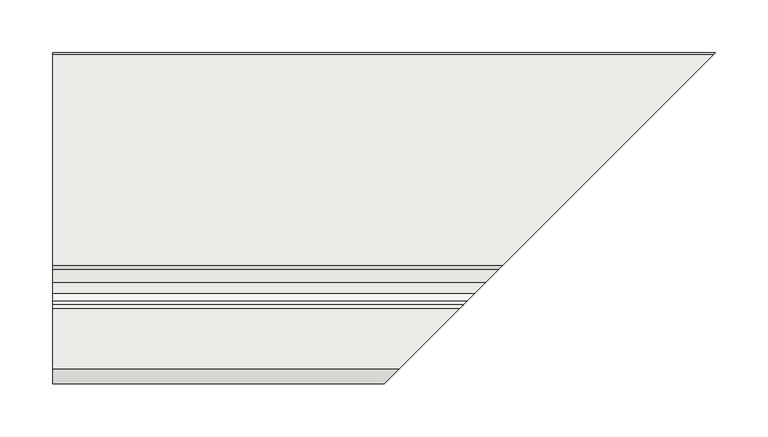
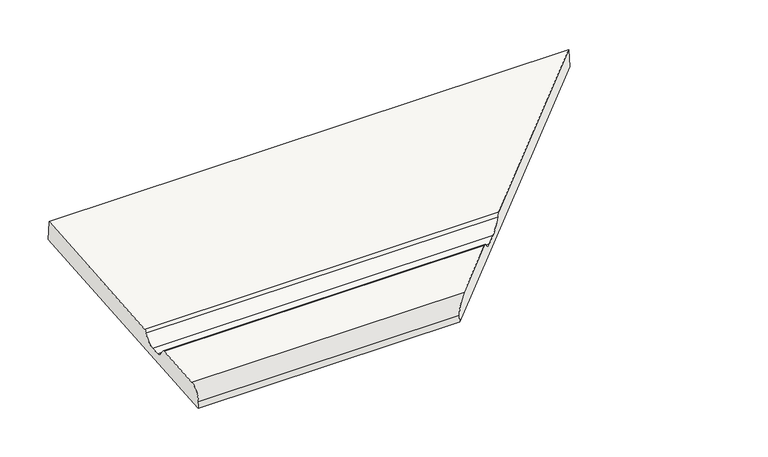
"""IFC4 building model written with IfcOpenShell, lengths in millimetres: slab geometry, ROSA GRES_647 (corte) : Pieza 647_Tresor_Java_Anti-Slip."""

from ifc_helpers import new_model, si_unit, frame, origin, place, context, project, spatial, polyline, circle_curve, ellipse_curve, source, transform, mapped, element, save
from ifc_brep_helpers import plane_surface, cylinder_surface, revolved_surface, advanced_brep


def slab_463c4309(model_context):
    return source(origin(), model_context, "Body", "AdvancedBrep", [
        advanced_brep(
        [(0.0, 312.4796595, 25.376745), (0.0, 0.7082203, 0.0), (0.0, 0.0186199, 8.4722336), (0.0, 13.5874413, 25.1276799), (0.0, 70.7377594, 29.7794499), (0.0, 74.4536279, 27.4207227), (0.0, 78.0293651, 21.9145702), (0.0, 85.1278688, 18.1402288), (0.0, 95.3021773, 18.9438117), (0.0, 108.1552944, 30.3907124), (0.0, 111.5789794, 33.1037353), (0.0, 310.5326103, 49.2976355), (625.4796595, 312.4796595, 25.376745), (313.7082203, 0.7082203, 0.0), (313.0186199, 0.0186199, 8.4722336), (326.5874413, 13.5874413, 25.1276799), (383.7377594, 70.7377594, 29.7794499), (421.1552944, 108.1552944, 30.3907124), (424.5789794, 111.5789794, 33.1037353), (623.5326103, 310.5326103, 49.2976355), (387.4536279, 74.4536279, 27.4207227), (391.0293651, 78.0293651, 21.9145702), (398.1278688, 85.1278688, 18.1402288), (408.3021773, 95.3021773, 18.9438117)],
        [
            (0, 1),
            (1, 2),
            (2, 3, circle_curve(frame((0.0, 16.0756768, 9.2457383), z_axis=(-1.0, 0.0, 0.0), x_axis=(0.0, 1.0, 0.0)), 16.0756768)),
            (3, 4),
            (4, 5, circle_curve(frame((0.0, 70.0190016, 24.5408427), z_axis=(-1.0, 0.0, 0.0), x_axis=(0.0, 1.0, 0.0)), 5.2876855)),
            (5, 6),
            (6, 7, circle_curve(frame((0.0, 84.3251343, 25.1928474), z_axis=(1.0, 0.0, 0.0), x_axis=(0.0, 1.0, 0.0)), 7.0981555)),
            (7, 8),
            (8, 9, circle_curve(frame((0.0, 93.0715977, 34.3879029), z_axis=(1.0, 0.0, 0.0), x_axis=(0.0, 1.0, 0.0)), 15.6043403)),
            (9, 10, circle_curve(frame((0.0, 112.7964417, 28.050603), z_axis=(-1.0, 0.0, 0.0), x_axis=(0.0, 1.0, 0.0)), 5.1977265)),
            (10, 11),
            (11, 0),
            (0, 12),
            (12, 13),
            (13, 1),
            (13, 14),
            (14, 2),
            (14, 15, ellipse_curve(frame((329.0756768, 16.0756768, 9.2457383), z_axis=(-0.7071067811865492, 0.7071067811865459, 0.0), x_axis=(-0.7071067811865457, -0.7071067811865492, 0.0)), 22.7344401, 16.0756768)),
            (15, 3),
            (15, 16),
            (16, 4),
            (9, 17),
            (17, 18, ellipse_curve(frame((425.7964417, 112.7964417, 28.050603), z_axis=(-0.7071067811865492, 0.7071067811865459, 0.0), x_axis=(-0.7071067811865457, -0.7071067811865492, 0.0)), 7.3506953, 5.1977265)),
            (18, 10),
            (18, 19),
            (19, 11),
            (19, 12),
            (16, 20, ellipse_curve(frame((383.0190016, 70.0190016, 24.5408427), z_axis=(-0.7071067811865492, 0.7071067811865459, 0.0), x_axis=(-0.7071067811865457, -0.7071067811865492, 0.0)), 7.4779166, 5.2876855)),
            (20, 5),
            (20, 21),
            (21, 6),
            (21, 22, ellipse_curve(frame((397.3251343, 84.3251343, 25.1928474), z_axis=(0.7071067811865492, -0.7071067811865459, 0.0), x_axis=(0.7071067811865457, 0.7071067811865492, 0.0)), 10.0383078, 7.0981555)),
            (22, 7),
            (22, 23),
            (23, 8),
            (23, 17, ellipse_curve(frame((406.0715977, 93.0715977, 34.3879029), z_axis=(0.7071067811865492, -0.7071067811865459, 0.0), x_axis=(0.7071067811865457, 0.7071067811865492, 0.0)), 22.0678697, 15.6043403)),
        ],
        [
            plane_surface(frame((0.0, 0.0, 0.0), z_axis=(-1.0, 0.0, 0.0), x_axis=(0.0, 0.0, 1.0))),
            plane_surface(frame((0.0, 312.4796595, 25.376745), z_axis=(0.0, 0.08112705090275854, -0.996703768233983), x_axis=(1.0, 0.0, 0.0))),
            plane_surface(frame((0.0, 0.7082203, 0.0), z_axis=(0.0, -0.9967037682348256, -0.08112705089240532), x_axis=(1.0, 0.0, 0.0))),
            cylinder_surface(frame((0.0, 16.0756768, 9.2457383), z_axis=(-1.0, 0.0, 0.0), x_axis=(0.0, 1.0, 0.0)), 16.0756768),
            plane_surface(frame((0.0, 13.5874413, 25.1276799), z_axis=(0.0, -0.08112705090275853, 0.996703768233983), x_axis=(1.0, 0.0, 0.0))),
            cylinder_surface(frame((0.0, 112.7964417, 28.050603), z_axis=(-1.0, 0.0, 0.0), x_axis=(0.0, 1.0, 0.0)), 5.1977265),
            plane_surface(frame((0.0, 111.5789794, 33.1037353), z_axis=(0.0, -0.0811270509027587, 0.996703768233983), x_axis=(1.0, 0.0, 0.0))),
            plane_surface(frame((0.0, 310.5326103, 49.2976355), z_axis=(0.0, 0.996703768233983, 0.08112705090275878), x_axis=(1.0, 0.0, 0.0))),
            cylinder_surface(frame((0.0, 70.0190016, 24.5408427), z_axis=(-1.0, 0.0, 0.0), x_axis=(0.0, 1.0, 0.0)), 5.2876855),
            plane_surface(frame((0.0, 74.4536279, 27.4207227), z_axis=(0.0, 0.8386705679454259, 0.5446390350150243), x_axis=(1.0, 0.0, 0.0))),
            revolved_surface(polyline([(404.4232898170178, 91.4232898, 25.1928474), (0.0, 91.4232898, 25.1928474)]), (0.0, 84.3251343, 25.1928474), (1.0, 0.0, 0.0)),
            plane_surface(frame((0.0, 85.1278688, 18.1402288), z_axis=(0.0, -0.07873637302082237, 0.9968954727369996), x_axis=(1.0, 0.0, 0.0))),
            revolved_surface(polyline([(421.6759380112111, 108.675938, 34.3879029), (0.0, 108.675938, 34.3879029)]), (0.0, 93.0715977, 34.3879029), (1.0, 0.0, 0.0)),
            plane_surface(frame((626.0, 313.0, 104.9871832), z_axis=(0.7071067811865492, -0.7071067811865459, 0.0), x_axis=(0.0, 0.0, -1.0))),
        ],
        [
            (0, [[1, 2, 3, 4, 5, 6, 7, 8, 9, 10, 11, 12]]),
            (1, [[-1, 13, 14, 15]]),
            (2, [[-2, -15, 16, 17]]),
            (3, [[-3, -17, 18, 19]]),
            (4, [[-4, -19, 20, 21]]),
            (5, [[-10, 22, 23, 24]]),
            (6, [[-11, -24, 25, 26]]),
            (7, [[-12, -26, 27, -13]]),
            (8, [[-5, -21, 28, 29]]),
            (9, [[-6, -29, 30, 31]]),
            (10, [[-7, -31, 32, 33]]),
            (11, [[-8, -33, 34, 35]]),
            (12, [[-9, -35, 36, -22]]),
            (13, [[-14, -27, -25, -23, -36, -34, -32, -30, -28, -20, -18, -16]]),
        ],
    ),
    ])


if __name__ == "__main__":
    model = new_model("IFC4")
    model_context = context("Model", 3, world=origin())
    ifc_project = project(units=[si_unit("LENGTHUNIT", "METRE", prefix="MILLI")], contexts=[model_context])
    site = spatial("IfcSite", under=ifc_project)
    building = spatial("IfcBuilding", under=site)
    placement = place(None, origin())
    slab_shape = slab_463c4309(model_context)
    element("IfcSlab", 1, ObjectType="ROSA GRES_647 (corte) : Pieza 647_Tresor_Java_Anti-Slip", at=placement, inside=building, context=model_context, shape_type="MappedRepresentation", body=[
        mapped(slab_shape, transform((0.0, 0.0, 0.0), x_axis=(1.0, 0.0, 0.0), y_axis=(0.0, 1.0, 0.0), z_axis=(0.0, 0.0, 1.0))),
    ])
    save(model, "model.ifc")
